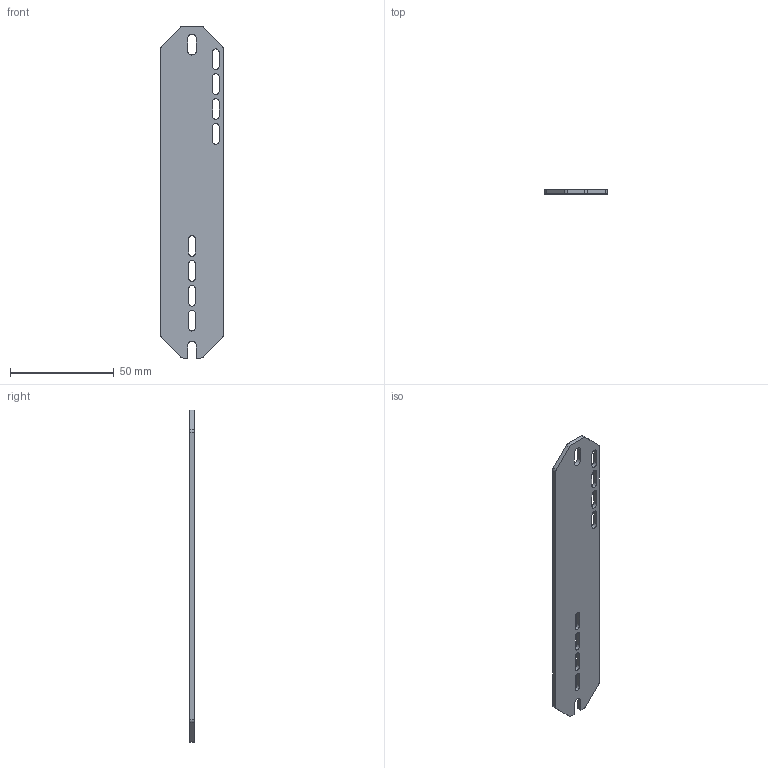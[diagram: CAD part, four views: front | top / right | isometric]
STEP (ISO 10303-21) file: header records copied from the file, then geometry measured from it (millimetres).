
FILE_DESCRIPTION (( 'STEP AP203' ), '1' );
FILE_NAME ('ORW-71.24.002 Ïëàñòèíà ìîíòàæíàÿ.STEP', '2024-11-12T09:26:49', ( 'Àíäðåé' ), ( '' ), 'SwSTEP 2.0', 'SolidWorks 2023', '' );
FILE_SCHEMA (( 'CONFIG_CONTROL_DESIGN' ));
Length unit declared in the file: millimetre
Products named in the file (1): ORW-71.24.002 Пластина монтажная
Bounding box: 30 x 2 x 160 mm (x, y, z)
Volume: 8578.9 mm3; surface area: 9747.2 mm2
Topology: 1 solids, 1 shells, 60 faces, 174 edges, 116 vertices
Faces by surface type: plane 31, cylinder 29
Entity records: 2109 total; most frequent: DIRECTION 354, CARTESIAN_POINT 351, ORIENTED_EDGE 348, EDGE_CURVE 174, AXIS2_PLACEMENT_3D 119, LINE 116, VERTEX_POINT 116, VECTOR 116
